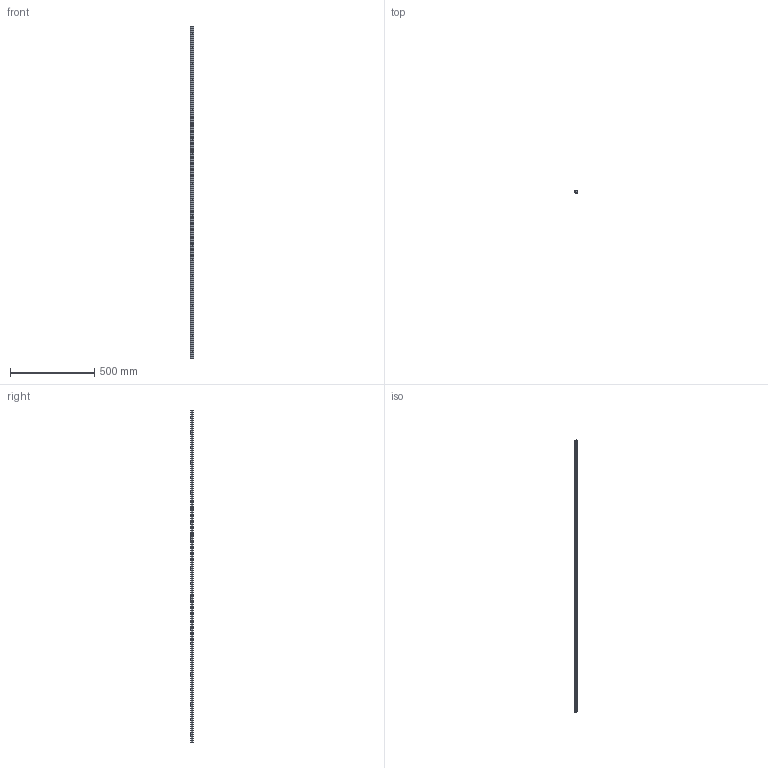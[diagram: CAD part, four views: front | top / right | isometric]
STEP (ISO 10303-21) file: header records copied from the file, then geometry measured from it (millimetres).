
FILE_DESCRIPTION(('STEP AP203'),'1');
FILE_NAME('slide_nsel1976p2.stp','2022-07-04T01:22:11',('TraceParts'),('TraceParts S.A.'),'Spatial InterOp 3D',' ',' ');
FILE_SCHEMA(('CONFIG_CONTROL_DESIGN'));
Length unit declared in the file: millimetre
Products named in the file (1): 1
Bounding box: 20.8 x 12.66 x 1976 mm (x, y, z)
Volume: 381686.3 mm3; surface area: 144889.3 mm2
Topology: 1 solids, 1 shells, 132 faces, 324 edges, 216 vertices
Faces by surface type: cylinder 97, plane 35
Entity records: 4134 total; most frequent: DIRECTION 784, CARTESIAN_POINT 673, ORIENTED_EDGE 648, AXIS2_PLACEMENT_3D 327, EDGE_CURVE 324, VERTEX_POINT 216, EDGE_LOOP 198, CIRCLE 194
